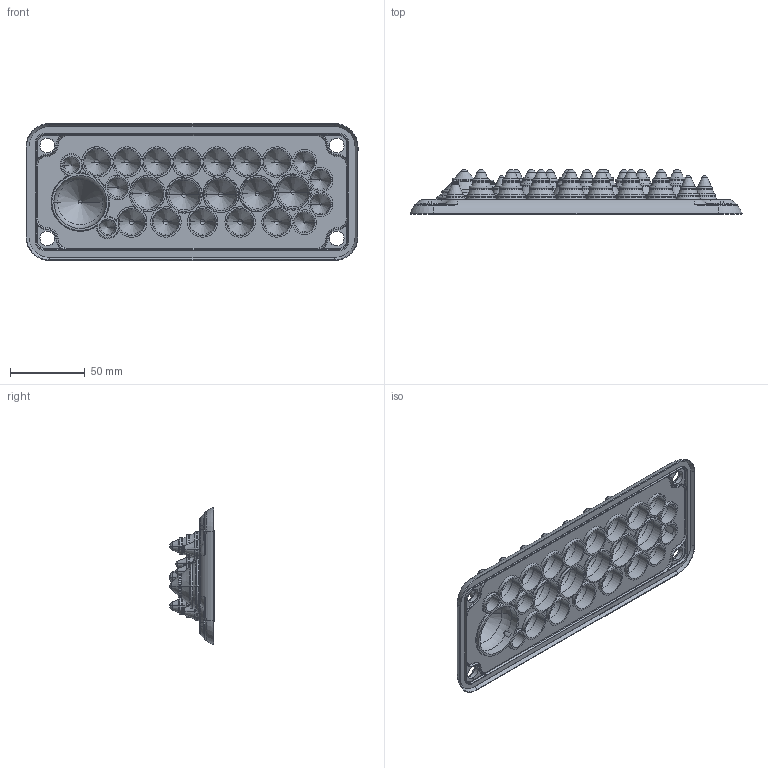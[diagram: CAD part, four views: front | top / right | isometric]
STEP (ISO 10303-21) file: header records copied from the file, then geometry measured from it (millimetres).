
FILE_DESCRIPTION (( 'STEP AP214' ), '1' );
FILE_NAME ('EKBV-04.STEP', '2026-07-20T13:18:27', ( '' ), ( '' ), 'SwSTEP 2.0', 'SolidWorks 2025', '' );
FILE_SCHEMA (( 'AUTOMOTIVE_DESIGN' ));
Length unit declared in the file: millimetre
Products named in the file (1): EKBV-04
Bounding box: 221.4 x 29.75 x 91.4 mm (x, y, z)
Volume: 103055.3 mm3; surface area: 84049.7 mm2
Topology: 1 solids, 1 shells, 2174 faces, 5196 edges, 3047 vertices
Faces by surface type: torus 724, plane 564, cone 298, bspline 271, cylinder 217, sphere 100
Entity records: 100460 total; most frequent: CARTESIAN_POINT 27888, DIRECTION 10376, ORIENTED_EDGE 10076, EDGE_CURVE 5038, AXIS2_PLACEMENT_3D 4165, VERTEX_POINT 2997, EDGE_LOOP 2313, CIRCLE 2261
